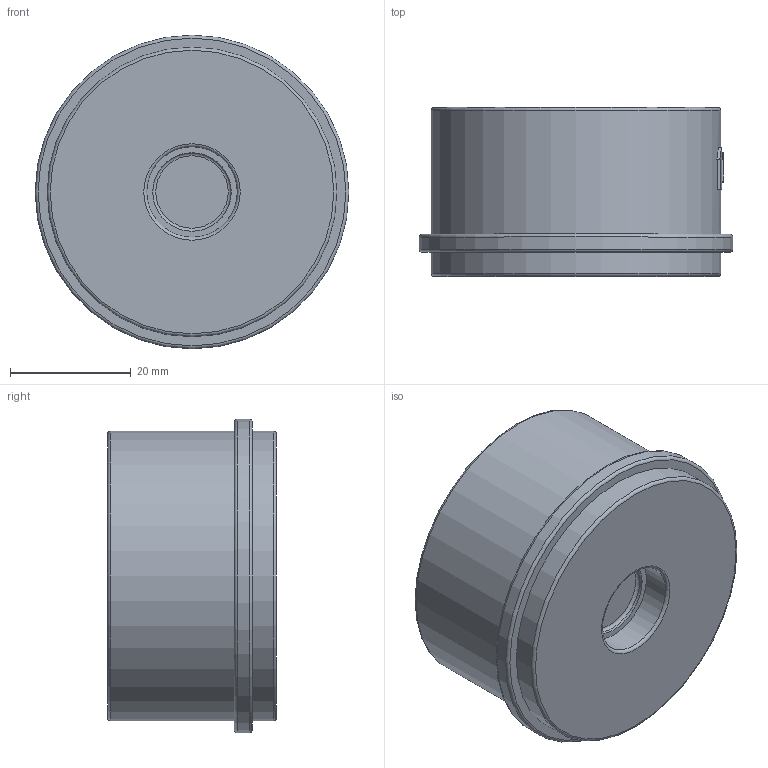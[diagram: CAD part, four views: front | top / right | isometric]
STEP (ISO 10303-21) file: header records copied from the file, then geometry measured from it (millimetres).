
FILE_DESCRIPTION(('STEP AP242'), '1');
FILE_NAME('VCS3232-Fb Êëàïàí îáðàòíûé ïðóæèííûé DN.ru Äó15 Ðó40', '', ('UNSPECIFIED'), ('UNSPECIFIED'), 'C3D Converter', 'C3D Toolkit', '');
FILE_SCHEMA(('AP242_MANAGED_MODEL_BASED_3D_ENGINEERING_MIM_LF { 1 0 10303 442 1 1 4 }'));
Length unit declared in the file: millimetre
Products named in the file (1): VCS3232-Fb
Bounding box: 52 x 28 x 52 mm (x, y, z)
Volume: 22764.7 mm3; surface area: 15489.8 mm2
Topology: 1 solids, 1 shells, 137 faces, 366 edges, 247 vertices
Faces by surface type: plane 53, extrusion 40, cylinder 29, torus 10, bspline 3, cone 2
Full cylindrical faces by diameter (mm): 4.5 x2, 8.5 x2, 13 x1, 15 x1, 23 x1, 24 x1, 30 x1, 42 x1, 48 x2, 52 x1
Entity records: 10748 total; most frequent: CARTESIAN_POINT 7469, ORIENTED_EDGE 676, DIRECTION 551, EDGE_CURVE 338, VERTEX_POINT 247, AXIS2_PLACEMENT_3D 202, EDGE_LOOP 189, FACE_BOUND 169
